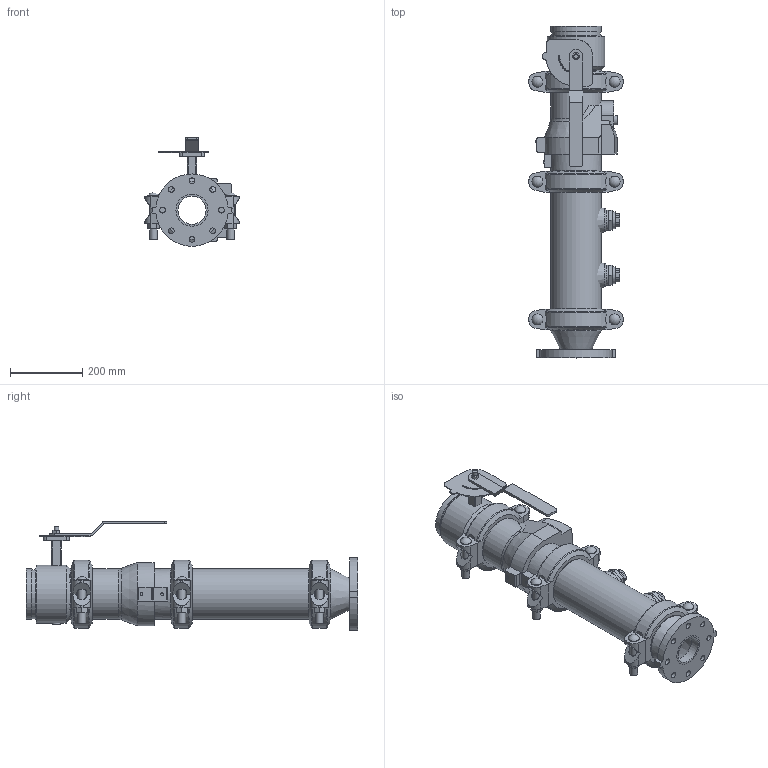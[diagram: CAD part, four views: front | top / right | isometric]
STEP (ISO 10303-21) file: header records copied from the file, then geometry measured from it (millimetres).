
FILE_DESCRIPTION(/* description */ ('VIC DVI PUMP DROP VERT S/390 (OGSxFLG)','CAx-IF Rec.Pracs.---Representation and Presentation of Product Manufacturing Information (PMI)---4.0---2014-10-13'),/* implementation_level */ '2;1');
FILE_NAME(/* name */ 'C:\Users\Vjadhav\AppData\Roaming\Autodesk\ApplicationPlugins\Back Up\Victaulic_IPS_Vertical DVI_PN10_Series 390 (OGSxFLG)\Victaulic_IPS_Vertical DVI_PN10_Series 390 (OGSxFLG)_05.0 (139.7)x03.0 (125x80).stp',/* time_stamp */ '2020-11-09T17:50:27+05:00',/* author */ ('Vjadhav'),/* organization */ ('Victaulic'),/* preprocessor_version */ 'ST-DEVELOPER v17.2',/* originating_system */ 'Autodesk Inventor 2019',/* authorisation */ '');
FILE_SCHEMA (('AP242_MANAGED_MODEL_BASED_3D_ENGINEERING_MIM_LF { 1 0 10303 442 1 1 4 }'));
Length unit declared in the file: inch
Products named in the file (8): 390-05.0 (139.7)x03.0; 741-03.0; 050-05.0 (139.7)x03.0; Pipe-05.0 (139.7); 177N-05.0 (139.7); 761-05.0 (139.7); 716-05.0 (139.7); 923-04.0x0.75
Assembly tree (10 placements, depth 2):
  390-05.0 (139.7)x03.0
    741-03.0
    050-05.0 (139.7)x03.0
    177N-05.0 (139.7)  x3
    Pipe-05.0 (139.7)
    761-05.0 (139.7)
    716-05.0 (139.7)
    923-04.0x0.75  x2
Bounding box: 260.6 x 917.96 x 300.48 mm (x, y, z)
Volume: 7714992.1 mm3; surface area: 1423741.9 mm2
Topology: 10 solids, 11 shells, 610 faces, 1634 edges, 1087 vertices
Faces by surface type: plane 357, cylinder 208, cone 20, torus 17, sphere 6, bspline 2
Full cylindrical faces by diameter (mm): 4.826 x10, 7.62 x2, 8.636 x4, 12.7 x2, 16.002 x8, 21.209 x6, 22.86 x1, 25.4 x1, 26.67 x2, 30.48 x6, 45.974 x4, 55.118 x1, 55.626 x2, 77.927 x1, 84.938 x1, 88.9 x3, 126.594 x1, 127 x3, 128.194 x2, 129.388 x1, 135.484 x7, 139.7 x19, 160.02 x1
Entity records: 12574 total; most frequent: CARTESIAN_POINT 2385, DIRECTION 2093, ORIENTED_EDGE 1924, EDGE_CURVE 962, AXIS2_PLACEMENT_3D 787, VERTEX_POINT 647, LINE 519, VECTOR 519
